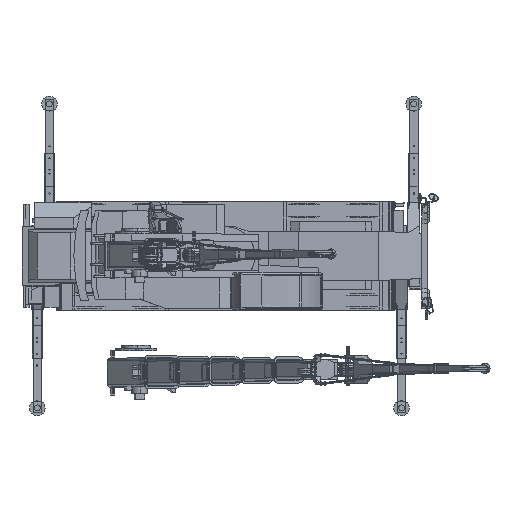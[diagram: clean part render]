
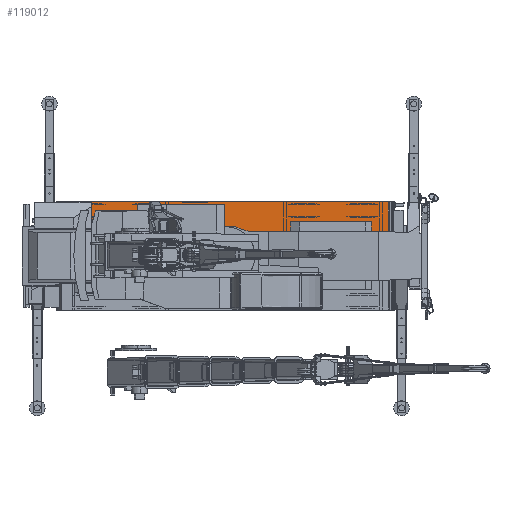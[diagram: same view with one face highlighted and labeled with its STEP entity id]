
A CAD part, top view. The second image highlights one B-rep face of the part: STEP entity #119012.
In plain terms, the highlighted planar face has unit normal (0, 0, 1).
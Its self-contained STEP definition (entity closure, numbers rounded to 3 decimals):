
#117174=CARTESIAN_POINT('Vertex',(4169.2,620.874,0.7)) ;
#117177=CARTESIAN_POINT('Line Origine',(4046.75,626.687,0.7)) ;
#117181=CARTESIAN_POINT('Vertex',(3924.3,632.5,0.7)) ;
#117238=CARTESIAN_POINT('Vertex',(635.249,632.5,0.7)) ;
#117276=CARTESIAN_POINT('Line Origine',(3826.2,632.5,0.7)) ;
#117280=CARTESIAN_POINT('Vertex',(3728.1,632.5,0.7)) ;
#117301=CARTESIAN_POINT('Vertex',(1663.8,632.5,0.7)) ;
#117304=CARTESIAN_POINT('Line Origine',(1149.524,632.5,0.7)) ;
#117482=CARTESIAN_POINT('Vertex',(3728.1,874.3,0.7)) ;
#117485=CARTESIAN_POINT('Line Origine',(3728.1,753.4,0.7)) ;
#117646=CARTESIAN_POINT('Axis2P3D Location',(635.249,1132.5,0.7)) ;
#117650=CARTESIAN_POINT('Vertex',(455.02,666.112,0.7)) ;
#117674=CARTESIAN_POINT('Vertex',(1663.8,874.3,0.7)) ;
#117677=CARTESIAN_POINT('Line Origine',(2695.95,874.3,0.7)) ;
#117698=CARTESIAN_POINT('Vertex',(-4181.4,704.,0.7)) ;
#117754=CARTESIAN_POINT('Vertex',(-550.164,704.,0.7)) ;
#117757=CARTESIAN_POINT('Line Origine',(-952.482,704.,0.7)) ;
#117761=CARTESIAN_POINT('Vertex',(-1354.8,704.,0.7)) ;
#117782=CARTESIAN_POINT('Vertex',(-3839.6,704.,0.7)) ;
#117785=CARTESIAN_POINT('Line Origine',(-4010.5,704.,0.7)) ;
#117817=CARTESIAN_POINT('Vertex',(-3839.6,944.3,0.7)) ;
#117822=CARTESIAN_POINT('Line Origine',(-3839.6,824.15,0.7)) ;
#118027=CARTESIAN_POINT('Line Origine',(-4203.35,708.391,0.7)) ;
#118031=CARTESIAN_POINT('Vertex',(-4225.3,712.783,0.7)) ;
#118115=CARTESIAN_POINT('Line Origine',(-4225.3,1051.391,0.7)) ;
#118119=CARTESIAN_POINT('Vertex',(-4225.3,1390.,0.7)) ;
#118743=CARTESIAN_POINT('Vertex',(-1354.8,944.3,0.7)) ;
#118746=CARTESIAN_POINT('Line Origine',(-2597.2,944.3,0.7)) ;
#118763=CARTESIAN_POINT('Line Origine',(-1354.8,824.15,0.7)) ;
#118784=CARTESIAN_POINT('Vertex',(225.,755.,0.7)) ;
#118787=CARTESIAN_POINT('Line Origine',(340.01,710.556,0.7)) ;
#118808=CARTESIAN_POINT('Vertex',(-225.,755.,0.7)) ;
#118811=CARTESIAN_POINT('Line Origine',(0.,755.,0.7)) ;
#118832=CARTESIAN_POINT('Vertex',(-460.567,712.093,0.7)) ;
#118835=CARTESIAN_POINT('Line Origine',(-342.783,733.547,0.7)) ;
#118852=CARTESIAN_POINT('Axis2P3D Location',(-550.164,1204.,0.7)) ;
#118886=CARTESIAN_POINT('Line Origine',(1663.8,753.4,0.7)) ;
#118965=CARTESIAN_POINT('Vertex',(4169.2,1390.,0.7)) ;
#118968=CARTESIAN_POINT('Line Origine',(4169.2,1005.437,0.7)) ;
#118980=CARTESIAN_POINT('Axis2P3D Location',(-3839.6,0.,0.7)) ;
#118985=CARTESIAN_POINT('Line Origine',(-28.05,1390.,0.7)) ;
#117178=DIRECTION('Vector Direction',(0.999,-0.047,0.)) ;
#117277=DIRECTION('Vector Direction',(1.,0.,0.)) ;
#117305=DIRECTION('Vector Direction',(1.,0.,0.)) ;
#117486=DIRECTION('Vector Direction',(0.,1.,0.)) ;
#117647=DIRECTION('Axis2P3D Direction',(0.,0.,1.)) ;
#117678=DIRECTION('Vector Direction',(1.,0.,0.)) ;
#117758=DIRECTION('Vector Direction',(1.,0.,0.)) ;
#117786=DIRECTION('Vector Direction',(1.,0.,0.)) ;
#117823=DIRECTION('Vector Direction',(0.,1.,0.)) ;
#118028=DIRECTION('Vector Direction',(-0.981,0.196,0.)) ;
#118116=DIRECTION('Vector Direction',(0.,1.,0.)) ;
#118747=DIRECTION('Vector Direction',(1.,0.,0.)) ;
#118764=DIRECTION('Vector Direction',(0.,1.,0.)) ;
#118788=DIRECTION('Vector Direction',(0.933,-0.36,0.)) ;
#118812=DIRECTION('Vector Direction',(1.,0.,0.)) ;
#118836=DIRECTION('Vector Direction',(0.984,0.179,0.)) ;
#118853=DIRECTION('Axis2P3D Direction',(0.,0.,1.)) ;
#118887=DIRECTION('Vector Direction',(0.,1.,0.)) ;
#118969=DIRECTION('Vector Direction',(0.,1.,0.)) ;
#118981=DIRECTION('Axis2P3D Direction',(0.,0.,-1.)) ;
#118982=DIRECTION('Axis2P3D XDirection',(-1.,0.,0.)) ;
#118986=DIRECTION('Vector Direction',(-1.,0.,0.)) ;
#117648=AXIS2_PLACEMENT_3D('Circle Axis2P3D',#117646,#117647,$) ;
#118854=AXIS2_PLACEMENT_3D('Circle Axis2P3D',#118852,#118853,$) ;
#118983=AXIS2_PLACEMENT_3D('Plane Axis2P3D',#118980,#118981,#118982) ;
#118991=ORIENTED_EDGE('',*,*,#118989,.T.) ;
#118992=ORIENTED_EDGE('',*,*,#118121,.F.) ;
#118993=ORIENTED_EDGE('',*,*,#118033,.F.) ;
#118994=ORIENTED_EDGE('',*,*,#117789,.T.) ;
#118995=ORIENTED_EDGE('',*,*,#117826,.T.) ;
#118996=ORIENTED_EDGE('',*,*,#118750,.T.) ;
#118997=ORIENTED_EDGE('',*,*,#118767,.F.) ;
#118998=ORIENTED_EDGE('',*,*,#117763,.T.) ;
#118999=ORIENTED_EDGE('',*,*,#118856,.F.) ;
#119000=ORIENTED_EDGE('',*,*,#118839,.T.) ;
#119001=ORIENTED_EDGE('',*,*,#118815,.T.) ;
#119002=ORIENTED_EDGE('',*,*,#118791,.T.) ;
#119003=ORIENTED_EDGE('',*,*,#117652,.F.) ;
#119004=ORIENTED_EDGE('',*,*,#117308,.T.) ;
#119005=ORIENTED_EDGE('',*,*,#118890,.T.) ;
#119006=ORIENTED_EDGE('',*,*,#117681,.T.) ;
#119007=ORIENTED_EDGE('',*,*,#117489,.F.) ;
#119008=ORIENTED_EDGE('',*,*,#117282,.T.) ;
#119009=ORIENTED_EDGE('',*,*,#117183,.T.) ;
#119010=ORIENTED_EDGE('',*,*,#118972,.T.) ;
#117179=VECTOR('Line Direction',#117178,1.) ;
#117278=VECTOR('Line Direction',#117277,1.) ;
#117306=VECTOR('Line Direction',#117305,1.) ;
#117487=VECTOR('Line Direction',#117486,1.) ;
#117679=VECTOR('Line Direction',#117678,1.) ;
#117759=VECTOR('Line Direction',#117758,1.) ;
#117787=VECTOR('Line Direction',#117786,1.) ;
#117824=VECTOR('Line Direction',#117823,1.) ;
#118029=VECTOR('Line Direction',#118028,1.) ;
#118117=VECTOR('Line Direction',#118116,1.) ;
#118748=VECTOR('Line Direction',#118747,1.) ;
#118765=VECTOR('Line Direction',#118764,1.) ;
#118789=VECTOR('Line Direction',#118788,1.) ;
#118813=VECTOR('Line Direction',#118812,1.) ;
#118837=VECTOR('Line Direction',#118836,1.) ;
#118888=VECTOR('Line Direction',#118887,1.) ;
#118970=VECTOR('Line Direction',#118969,1.) ;
#118987=VECTOR('Line Direction',#118986,1.) ;
#119012=ADVANCED_FACE('\X2\FF8AFF9FFF70FF82\X0\ \X2\FF8EFF9EFF83FF9EFF68FF70\X0\',(#119011),#118984,.F.) ;
#117649=CIRCLE('generated circle',#117648,500.) ;
#118855=CIRCLE('generated circle',#118854,500.) ;
#117183=EDGE_CURVE('',#117182,#117175,#117180,.T.) ;
#117282=EDGE_CURVE('',#117281,#117182,#117279,.T.) ;
#117308=EDGE_CURVE('',#117239,#117302,#117307,.T.) ;
#117489=EDGE_CURVE('',#117281,#117483,#117488,.T.) ;
#117652=EDGE_CURVE('',#117239,#117651,#117649,.F.) ;
#117681=EDGE_CURVE('',#117675,#117483,#117680,.T.) ;
#117763=EDGE_CURVE('',#117762,#117755,#117760,.T.) ;
#117789=EDGE_CURVE('',#117699,#117783,#117788,.T.) ;
#117826=EDGE_CURVE('',#117783,#117818,#117825,.T.) ;
#118033=EDGE_CURVE('',#117699,#118032,#118030,.T.) ;
#118121=EDGE_CURVE('',#118032,#118120,#118118,.T.) ;
#118750=EDGE_CURVE('',#117818,#118744,#118749,.T.) ;
#118767=EDGE_CURVE('',#117762,#118744,#118766,.T.) ;
#118791=EDGE_CURVE('',#118785,#117651,#118790,.T.) ;
#118815=EDGE_CURVE('',#118809,#118785,#118814,.T.) ;
#118839=EDGE_CURVE('',#118833,#118809,#118838,.T.) ;
#118856=EDGE_CURVE('',#118833,#117755,#118855,.F.) ;
#118890=EDGE_CURVE('',#117302,#117675,#118889,.T.) ;
#118972=EDGE_CURVE('',#117175,#118966,#118971,.T.) ;
#118989=EDGE_CURVE('',#118966,#118120,#118988,.T.) ;
#118990=EDGE_LOOP('',(#118991,#118992,#118993,#118994,#118995,#118996,#118997,#118998,#118999,#119000,#119001,#119002,#119003,#119004,#119005,#119006,#119007,#119008,#119009,#119010)) ;
#119011=FACE_OUTER_BOUND('',#118990,.T.) ;
#117180=LINE('Line',#117177,#117179) ;
#117279=LINE('Line',#117276,#117278) ;
#117307=LINE('Line',#117304,#117306) ;
#117488=LINE('Line',#117485,#117487) ;
#117680=LINE('Line',#117677,#117679) ;
#117760=LINE('Line',#117757,#117759) ;
#117788=LINE('Line',#117785,#117787) ;
#117825=LINE('Line',#117822,#117824) ;
#118030=LINE('Line',#118027,#118029) ;
#118118=LINE('Line',#118115,#118117) ;
#118749=LINE('Line',#118746,#118748) ;
#118766=LINE('Line',#118763,#118765) ;
#118790=LINE('Line',#118787,#118789) ;
#118814=LINE('Line',#118811,#118813) ;
#118838=LINE('Line',#118835,#118837) ;
#118889=LINE('Line',#118886,#118888) ;
#118971=LINE('Line',#118968,#118970) ;
#118988=LINE('Line',#118985,#118987) ;
#118984=PLANE('',#118983) ;
#117175=VERTEX_POINT('',#117174) ;
#117182=VERTEX_POINT('',#117181) ;
#117239=VERTEX_POINT('',#117238) ;
#117281=VERTEX_POINT('',#117280) ;
#117302=VERTEX_POINT('',#117301) ;
#117483=VERTEX_POINT('',#117482) ;
#117651=VERTEX_POINT('',#117650) ;
#117675=VERTEX_POINT('',#117674) ;
#117699=VERTEX_POINT('',#117698) ;
#117755=VERTEX_POINT('',#117754) ;
#117762=VERTEX_POINT('',#117761) ;
#117783=VERTEX_POINT('',#117782) ;
#117818=VERTEX_POINT('',#117817) ;
#118032=VERTEX_POINT('',#118031) ;
#118120=VERTEX_POINT('',#118119) ;
#118744=VERTEX_POINT('',#118743) ;
#118785=VERTEX_POINT('',#118784) ;
#118809=VERTEX_POINT('',#118808) ;
#118833=VERTEX_POINT('',#118832) ;
#118966=VERTEX_POINT('',#118965) ;
